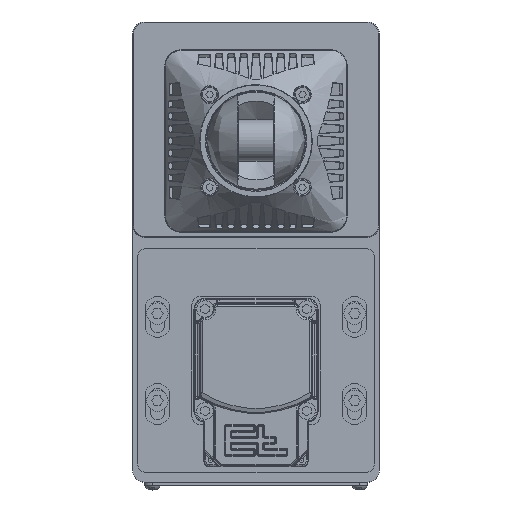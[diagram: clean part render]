
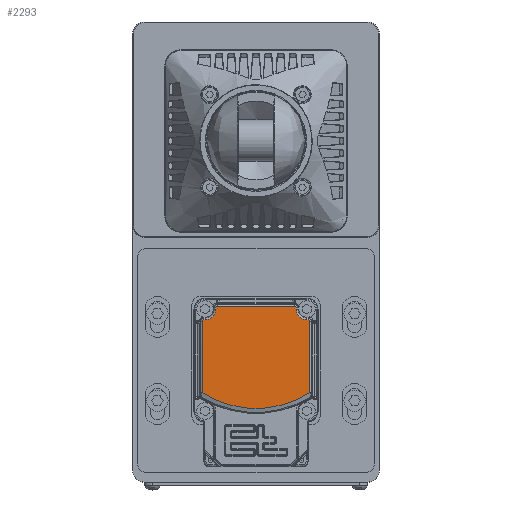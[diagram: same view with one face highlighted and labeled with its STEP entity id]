
A CAD part, top view. The second image highlights one B-rep face of the part: STEP entity #2293.
In plain terms, the highlighted planar face has unit normal (0, 0, 1).
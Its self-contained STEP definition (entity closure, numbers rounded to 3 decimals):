
#2293 = ADVANCED_FACE ( 'NONE', ( #45079 ), #120479, .T. ) ;
#6475 = CARTESIAN_POINT ( 'NONE',  ( 270.579, 79.586, 448.429 ) ) ;
#7089 = EDGE_CURVE ( 'NONE', #158750, #68835, #211884, .T. ) ;
#7598 = CARTESIAN_POINT ( 'NONE',  ( 326.096, 86.786, 448.429 ) ) ;
#8720 = ORIENTED_EDGE ( 'NONE', *, *, #63366, .T. ) ;
#8890 = VERTEX_POINT ( 'NONE', #219420 ) ;
#9741 = CARTESIAN_POINT ( 'NONE',  ( 333.882, 79.586, 448.429 ) ) ;
#9809 = CARTESIAN_POINT ( 'NONE',  ( 268.862, 35.763, 448.429 ) ) ;
#10097 = EDGE_CURVE ( 'NONE', #159574, #124240, #95686, .T. ) ;
#15490 = ORIENTED_EDGE ( 'NONE', *, *, #7089, .T. ) ;
#16506 = VECTOR ( 'NONE', #191184, 1000. ) ;
#16996 = DIRECTION ( 'NONE',  ( 0., 0., -1. ) ) ;
#17270 = VERTEX_POINT ( 'NONE', #131945 ) ;
#18201 = ORIENTED_EDGE ( 'NONE', *, *, #186280, .T. ) ;
#18654 = CARTESIAN_POINT ( 'NONE',  ( 278.062, 87.786, 448.429 ) ) ;
#27676 = CARTESIAN_POINT ( 'NONE',  ( 278.079, 87.786, 448.429 ) ) ;
#28749 = EDGE_CURVE ( 'NONE', #205268, #47760, #107147, .T. ) ;
#29157 = DIRECTION ( 'NONE',  ( 0., 1., 0. ) ) ;
#30314 = CARTESIAN_POINT ( 'NONE',  ( 332.579, 79.586, 448.429 ) ) ;
#31779 = CARTESIAN_POINT ( 'NONE',  ( 269.276, 79.586, 448.429 ) ) ;
#32727 = ORIENTED_EDGE ( 'NONE', *, *, #169168, .T. ) ;
#33339 = CARTESIAN_POINT ( 'NONE',  ( 325.097, 87.786, 448.429 ) ) ;
#37845 = CARTESIAN_POINT ( 'NONE',  ( 278.062, 87.786, 448.429 ) ) ;
#40861 = EDGE_CURVE ( 'NONE', #184121, #17270, #77779, .T. ) ;
#41598 = DIRECTION ( 'NONE',  ( -1., 0., 0. ) ) ;
#45079 = FACE_OUTER_BOUND ( 'NONE', #100684, .T. ) ;
#47760 = VERTEX_POINT ( 'NONE', #76430 ) ;
#48639 = VERTEX_POINT ( 'NONE', #6475 ) ;
#49297 = CARTESIAN_POINT ( 'NONE',  ( 334.296, 78.586, 448.429 ) ) ;
#50986 = CARTESIAN_POINT ( 'NONE',  ( 269.862, 79.586, 448.429 ) ) ;
#61231 = AXIS2_PLACEMENT_3D ( 'NONE', #66167, #68527, #194573 ) ;
#63366 = EDGE_CURVE ( 'NONE', #8890, #184739, #134489, .T. ) ;
#64725 = EDGE_CURVE ( 'NONE', #48639, #8890, #150748, .T. ) ;
#64832 = DIRECTION ( 'NONE',  ( 0., 1., 0. ) ) ;
#66110 = CARTESIAN_POINT ( 'NONE',  ( 332.579, 79.586, 448.429 ) ) ;
#66167 = CARTESIAN_POINT ( 'NONE',  ( 332.579, 86.068, 448.429 ) ) ;
#68339 = LINE ( 'NONE', #178739, #158603 ) ;
#68527 = DIRECTION ( 'NONE',  ( 0., 0., -1. ) ) ;
#68835 = VERTEX_POINT ( 'NONE', #33339 ) ;
#69014 = VECTOR ( 'NONE', #144028, 1000. ) ;
#70532 = ORIENTED_EDGE ( 'NONE', *, *, #40861, .T. ) ;
#75573 = CARTESIAN_POINT ( 'NONE',  ( 277.062, 86.068, 448.429 ) ) ;
#76430 = CARTESIAN_POINT ( 'NONE',  ( 277.062, 86.068, 448.429 ) ) ;
#77779 =( BOUNDED_CURVE ( )  B_SPLINE_CURVE ( 3, ( #49297, #85229, #9741, #177566 ),
 .UNSPECIFIED., .F., .T. ) 
 B_SPLINE_CURVE_WITH_KNOTS ( ( 4, 4 ),
 ( 2.356, 3.927 ),
 .UNSPECIFIED. ) 
 CURVE ( )  GEOMETRIC_REPRESENTATION_ITEM ( )  RATIONAL_B_SPLINE_CURVE ( ( 1., 0.805, 0.805, 1. ) ) 
 REPRESENTATION_ITEM ( '' )  );
#80387 = CARTESIAN_POINT ( 'NONE',  ( 334.296, 78.586, 448.429 ) ) ;
#83425 = DIRECTION ( 'NONE',  ( 0., 0., 1. ) ) ;
#85229 = CARTESIAN_POINT ( 'NONE',  ( 334.296, 79.172, 448.429 ) ) ;
#85320 = LINE ( 'NONE', #9809, #196633 ) ;
#86529 = DIRECTION ( 'NONE',  ( 0., -1., 0. ) ) ;
#88980 = VECTOR ( 'NONE', #41598, 1000. ) ;
#91896 = CARTESIAN_POINT ( 'NONE',  ( 277.476, 87.786, 448.429 ) ) ;
#93649 = CIRCLE ( 'NONE', #170352, 6.483 ) ;
#95686 = CIRCLE ( 'NONE', #61231, 6.483 ) ;
#98198 = VECTOR ( 'NONE', #148791, 1000. ) ;
#100684 = EDGE_LOOP ( 'NONE', ( #8720, #228467, #129588, #168117, #70532, #32727, #162122, #183734, #15490, #18201, #228502, #106815, #153433, #211426 ) ) ;
#104920 = CARTESIAN_POINT ( 'NONE',  ( 268.862, 78.586, 448.429 ) ) ;
#106273 = CARTESIAN_POINT ( 'NONE',  ( 334.296, 35.122, 448.429 ) ) ;
#106815 = ORIENTED_EDGE ( 'NONE', *, *, #28749, .T. ) ;
#107147 = LINE ( 'NONE', #75573, #98198 ) ;
#113061 = CARTESIAN_POINT ( 'NONE',  ( 326.096, 86.786, 448.429 ) ) ;
#115459 = CARTESIAN_POINT ( 'NONE',  ( 325.682, 87.786, 448.429 ) ) ;
#120219 = CARTESIAN_POINT ( 'NONE',  ( 301.579, 86.368, 448.429 ) ) ;
#120479 = PLANE ( 'NONE',  #190629 ) ;
#122433 = EDGE_CURVE ( 'NONE', #184739, #219955, #85320, .T. ) ;
#123190 = CIRCLE ( 'NONE', #211452, 60.8 ) ;
#124240 = VERTEX_POINT ( 'NONE', #136012 ) ;
#128076 =( BOUNDED_CURVE ( )  B_SPLINE_CURVE ( 3, ( #18654, #91896, #165057, #148248 ),
 .UNSPECIFIED., .F., .F. ) 
 B_SPLINE_CURVE_WITH_KNOTS ( ( 4, 4 ),
 ( 2.356, 3.927 ),
 .UNSPECIFIED. ) 
 CURVE ( )  GEOMETRIC_REPRESENTATION_ITEM ( )  RATIONAL_B_SPLINE_CURVE ( ( 1., 0.805, 0.805, 1. ) ) 
 REPRESENTATION_ITEM ( '' )  );
#129588 = ORIENTED_EDGE ( 'NONE', *, *, #205602, .T. ) ;
#131945 = CARTESIAN_POINT ( 'NONE',  ( 333.297, 79.586, 448.429 ) ) ;
#134489 =( BOUNDED_CURVE ( )  B_SPLINE_CURVE ( 3, ( #50986, #31779, #181692, #104920 ),
 .UNSPECIFIED., .F., .T. ) 
 B_SPLINE_CURVE_WITH_KNOTS ( ( 4, 4 ),
 ( 2.356, 3.927 ),
 .UNSPECIFIED. ) 
 CURVE ( )  GEOMETRIC_REPRESENTATION_ITEM ( )  RATIONAL_B_SPLINE_CURVE ( ( 1., 0.805, 0.805, 1. ) ) 
 REPRESENTATION_ITEM ( '' )  );
#135943 = CARTESIAN_POINT ( 'NONE',  ( 334.296, 78.569, 448.429 ) ) ;
#136012 = CARTESIAN_POINT ( 'NONE',  ( 326.096, 86.068, 448.429 ) ) ;
#144028 = DIRECTION ( 'NONE',  ( -1., 0., 0. ) ) ;
#144146 = EDGE_CURVE ( 'NONE', #47760, #48639, #93649, .T. ) ;
#148248 = CARTESIAN_POINT ( 'NONE',  ( 277.062, 86.786, 448.429 ) ) ;
#148791 = DIRECTION ( 'NONE',  ( 0., -1., 0. ) ) ;
#149780 = EDGE_CURVE ( 'NONE', #208113, #205268, #128076, .T. ) ;
#150748 = LINE ( 'NONE', #205924, #88980 ) ;
#153433 = ORIENTED_EDGE ( 'NONE', *, *, #144146, .T. ) ;
#157174 = LINE ( 'NONE', #27676, #183078 ) ;
#157330 = LINE ( 'NONE', #66110, #69014 ) ;
#158603 = VECTOR ( 'NONE', #176362, 1000. ) ;
#158750 = VERTEX_POINT ( 'NONE', #113061 ) ;
#159574 = VERTEX_POINT ( 'NONE', #30314 ) ;
#160657 = VERTEX_POINT ( 'NONE', #106273 ) ;
#162122 = ORIENTED_EDGE ( 'NONE', *, *, #10097, .T. ) ;
#165057 = CARTESIAN_POINT ( 'NONE',  ( 277.062, 87.372, 448.429 ) ) ;
#168117 = ORIENTED_EDGE ( 'NONE', *, *, #212545, .T. ) ;
#169168 = EDGE_CURVE ( 'NONE', #17270, #159574, #157330, .T. ) ;
#170352 = AXIS2_PLACEMENT_3D ( 'NONE', #220967, #16996, #64832 ) ;
#171977 = LINE ( 'NONE', #135943, #16506 ) ;
#174499 = CARTESIAN_POINT ( 'NONE',  ( 268.862, 78.586, 448.429 ) ) ;
#175741 = CARTESIAN_POINT ( 'NONE',  ( 264.079, 92.568, 448.429 ) ) ;
#176362 = DIRECTION ( 'NONE',  ( 0., 1., 0. ) ) ;
#177566 = CARTESIAN_POINT ( 'NONE',  ( 333.297, 79.586, 448.429 ) ) ;
#178739 = CARTESIAN_POINT ( 'NONE',  ( 326.096, 86.769, 448.429 ) ) ;
#181692 = CARTESIAN_POINT ( 'NONE',  ( 268.862, 79.172, 448.429 ) ) ;
#181985 = CARTESIAN_POINT ( 'NONE',  ( 277.062, 86.786, 448.429 ) ) ;
#183078 = VECTOR ( 'NONE', #212367, 1000. ) ;
#183734 = ORIENTED_EDGE ( 'NONE', *, *, #234173, .T. ) ;
#184121 = VERTEX_POINT ( 'NONE', #80387 ) ;
#184739 = VERTEX_POINT ( 'NONE', #174499 ) ;
#186280 = EDGE_CURVE ( 'NONE', #68835, #208113, #157174, .T. ) ;
#188740 = CARTESIAN_POINT ( 'NONE',  ( 325.097, 87.786, 448.429 ) ) ;
#190629 = AXIS2_PLACEMENT_3D ( 'NONE', #175741, #83425, #193765 ) ;
#191184 = DIRECTION ( 'NONE',  ( 0., 1., 0. ) ) ;
#193496 = DIRECTION ( 'NONE',  ( 0., 0., 1. ) ) ;
#193765 = DIRECTION ( 'NONE',  ( 0., 1., 0. ) ) ;
#194573 = DIRECTION ( 'NONE',  ( 0., 1., 0. ) ) ;
#196633 = VECTOR ( 'NONE', #86529, 1000. ) ;
#198479 = CARTESIAN_POINT ( 'NONE',  ( 268.862, 35.122, 448.429 ) ) ;
#205268 = VERTEX_POINT ( 'NONE', #181985 ) ;
#205602 = EDGE_CURVE ( 'NONE', #219955, #160657, #123190, .T. ) ;
#205924 = CARTESIAN_POINT ( 'NONE',  ( 269.879, 79.586, 448.429 ) ) ;
#206726 = CARTESIAN_POINT ( 'NONE',  ( 326.096, 87.372, 448.429 ) ) ;
#208113 = VERTEX_POINT ( 'NONE', #37845 ) ;
#211426 = ORIENTED_EDGE ( 'NONE', *, *, #64725, .T. ) ;
#211452 = AXIS2_PLACEMENT_3D ( 'NONE', #120219, #193496, #29157 ) ;
#211884 =( BOUNDED_CURVE ( )  B_SPLINE_CURVE ( 3, ( #7598, #206726, #115459, #188740 ),
 .UNSPECIFIED., .F., .T. ) 
 B_SPLINE_CURVE_WITH_KNOTS ( ( 4, 4 ),
 ( 2.356, 3.927 ),
 .UNSPECIFIED. ) 
 CURVE ( )  GEOMETRIC_REPRESENTATION_ITEM ( )  RATIONAL_B_SPLINE_CURVE ( ( 1., 0.805, 0.805, 1. ) ) 
 REPRESENTATION_ITEM ( '' )  );
#212367 = DIRECTION ( 'NONE',  ( -1., 0., 0. ) ) ;
#212545 = EDGE_CURVE ( 'NONE', #160657, #184121, #171977, .T. ) ;
#219420 = CARTESIAN_POINT ( 'NONE',  ( 269.862, 79.586, 448.429 ) ) ;
#219955 = VERTEX_POINT ( 'NONE', #198479 ) ;
#220967 = CARTESIAN_POINT ( 'NONE',  ( 270.579, 86.068, 448.429 ) ) ;
#228467 = ORIENTED_EDGE ( 'NONE', *, *, #122433, .T. ) ;
#228502 = ORIENTED_EDGE ( 'NONE', *, *, #149780, .T. ) ;
#234173 = EDGE_CURVE ( 'NONE', #124240, #158750, #68339, .T. ) ;
